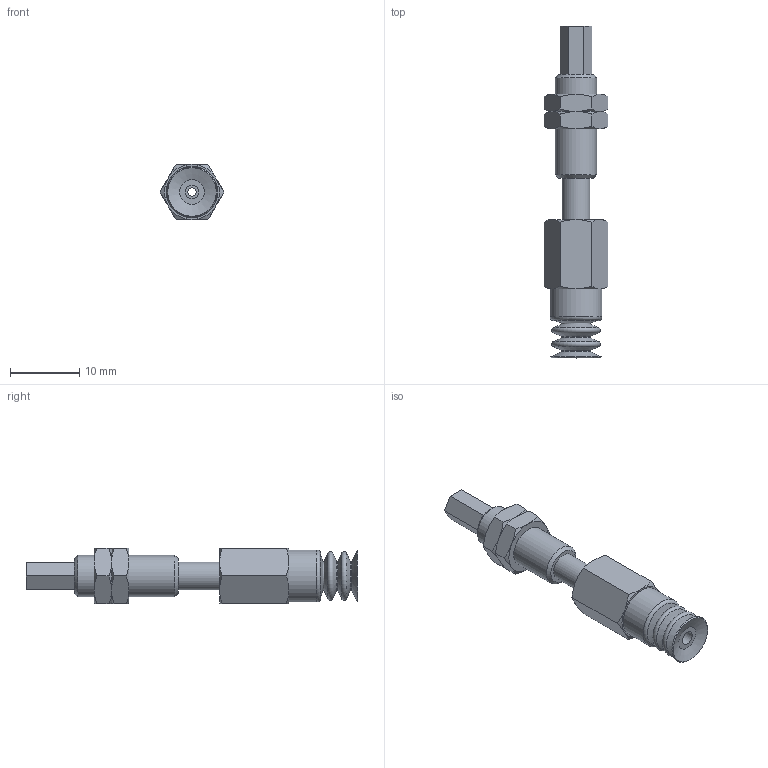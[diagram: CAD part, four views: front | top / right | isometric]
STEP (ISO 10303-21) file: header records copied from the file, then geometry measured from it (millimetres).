
FILE_DESCRIPTION(('STEP AP203'),'1');
FILE_NAME('.stp','2025-08-27T01:59:09',(' '),(' '),'Spatial InterOp 3D',' ',' ');
FILE_SCHEMA(('CONFIG_CONTROL_DESIGN'));
Length unit declared in the file: millimetre
Products named in the file (6): BNABPCTS-7-6-※; ADAPTER; NAPCTS-7-6-MBODY; Nut napc_s-7-6; NAPCTS-7-6-FBODY; BPCG-7-※
Assembly tree (6 placements, depth 2):
  BNABPCTS-7-6-※
    ADAPTER
    NAPCTS-7-6-MBODY
    Nut napc_s-7-6  x2
    NAPCTS-7-6-FBODY
    BPCG-7-※
Bounding box: 9.24 x 48 x 8 mm (x, y, z)
Volume: 1562.3 mm3; surface area: 2353.2 mm2
Topology: 6 solids, 6 shells, 124 faces, 253 edges, 146 vertices
Faces by surface type: cone 52, plane 47, cylinder 14, torus 11
Full cylindrical faces by diameter (mm): 1.2 x2, 2 x1, 2.459 x1, 4 x4, 5.188 x2, 6 x3, 7.5 x1
Entity records: 2878 total; most frequent: CARTESIAN_POINT 654, DIRECTION 412, ORIENTED_EDGE 330, AXIS2_PLACEMENT_3D 188, EDGE_CURVE 165, EDGE_LOOP 153, FACE_OUTER_BOUND 125, VERTEX_POINT 116
